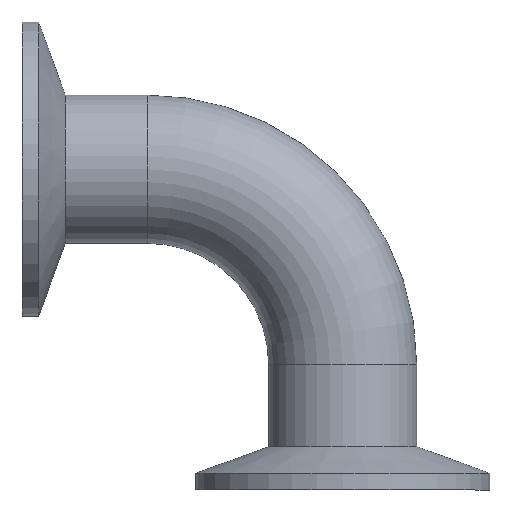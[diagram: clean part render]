
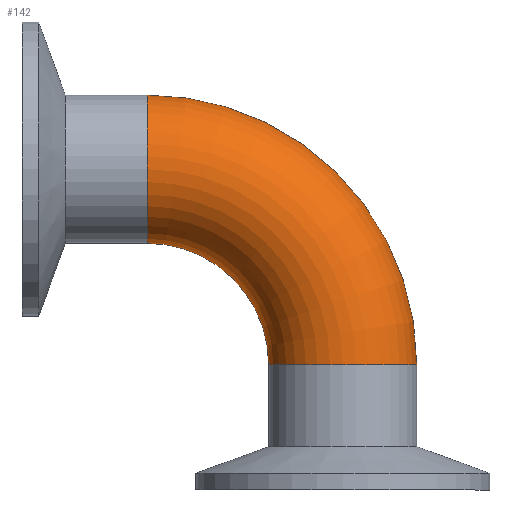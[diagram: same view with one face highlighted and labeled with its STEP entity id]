
A CAD part, left-side view. The second image highlights one B-rep face of the part: STEP entity #142.
In plain terms, the highlighted toroidal (fillet/blend) face has major radius 33.5 mm and minor radius 12.7 mm.
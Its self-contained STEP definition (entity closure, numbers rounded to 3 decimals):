
#17=TOROIDAL_SURFACE('',#168,33.5,12.7);
#32=FACE_BOUND('',#65,.T.);
#44=FACE_OUTER_BOUND('',#64,.T.);
#64=EDGE_LOOP('',(#124));
#65=EDGE_LOOP('',(#125));
#82=CIRCLE('',#167,12.7);
#83=CIRCLE('',#169,12.7);
#94=VERTEX_POINT('',#252);
#95=VERTEX_POINT('',#255);
#106=EDGE_CURVE('',#94,#94,#82,.T.);
#107=EDGE_CURVE('',#95,#95,#83,.T.);
#124=ORIENTED_EDGE('',*,*,#106,.F.);
#125=ORIENTED_EDGE('',*,*,#107,.T.);
#142=ADVANCED_FACE('',(#44,#32),#17,.T.);
#167=AXIS2_PLACEMENT_3D('',#253,#211,#212);
#168=AXIS2_PLACEMENT_3D('',#254,#213,#214);
#169=AXIS2_PLACEMENT_3D('',#256,#215,#216);
#211=DIRECTION('center_axis',(0.,1.,0.));
#212=DIRECTION('ref_axis',(-1.,0.,0.));
#213=DIRECTION('center_axis',(-1.,0.,0.));
#214=DIRECTION('ref_axis',(0.,0.,1.));
#215=DIRECTION('center_axis',(0.,0.,1.));
#216=DIRECTION('ref_axis',(-1.,0.,0.));
#252=CARTESIAN_POINT('',(12.7,0.,33.5));
#253=CARTESIAN_POINT('Origin',(0.,0.,33.5));
#254=CARTESIAN_POINT('Origin',(0.,0.,0.));
#255=CARTESIAN_POINT('',(12.7,-33.5,0.));
#256=CARTESIAN_POINT('Origin',(0.,-33.5,0.));
